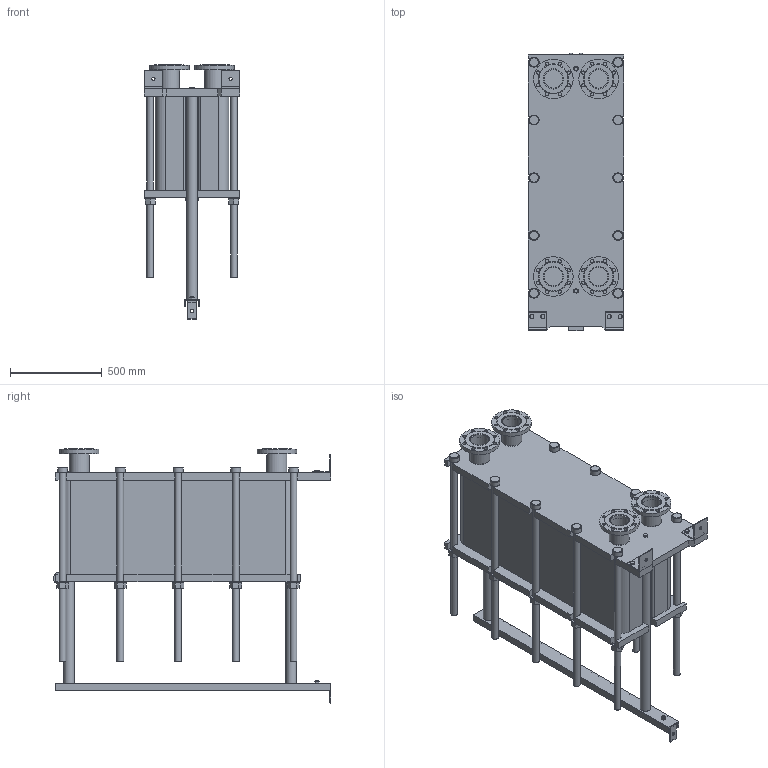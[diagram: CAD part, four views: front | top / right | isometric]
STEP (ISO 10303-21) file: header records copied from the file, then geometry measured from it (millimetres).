
FILE_DESCRIPTION(/* description */ (''),/* implementation_level */ '2;1');
FILE_NAME(/* name */ 'C:\Users\zhuro\Desktop\ENCO\TO\ЭН-04\ЭН-0,5-04-149-1.stp',/* time_stamp */ '2022-06-06T10:58:41+03:00',/* author */ ('zhuro'),/* organization */ (''),/* preprocessor_version */ 'ST-DEVELOPER v18.1',/* originating_system */ 'Autodesk Inventor 2022',/* authorisation */ '');
FILE_SCHEMA (('AUTOMOTIVE_DESIGN { 1 0 10303 214 3 1 1 }'));
Length unit declared in the file: millimetre
Products named in the file (1): ЭН-0,5-04-149-1
Bounding box: 520 x 1510 x 1384.5 mm (x, y, z)
Volume: 330743203.7 mm3; surface area: 9432776.6 mm2
Topology: 45 solids, 45 shells, 668 faces, 1611 edges, 1048 vertices
Faces by surface type: plane 457, cylinder 166, cone 39, torus 6
Full cylindrical faces by diameter (mm): 8 x4, 10 x2, 16 x8, 18 x35, 36 x25, 40 x2, 42 x1, 45 x4, 54 x10, 57 x2, 60 x10, 68 x2, 100 x4, 110 x8, 215 x4
Entity records: 23607 total; most frequent: CARTESIAN_POINT 7348, DIRECTION 3371, ORIENTED_EDGE 3142, EDGE_CURVE 1571, AXIS2_PLACEMENT_3D 1199, VERTEX_POINT 1044, LINE 973, VECTOR 973
